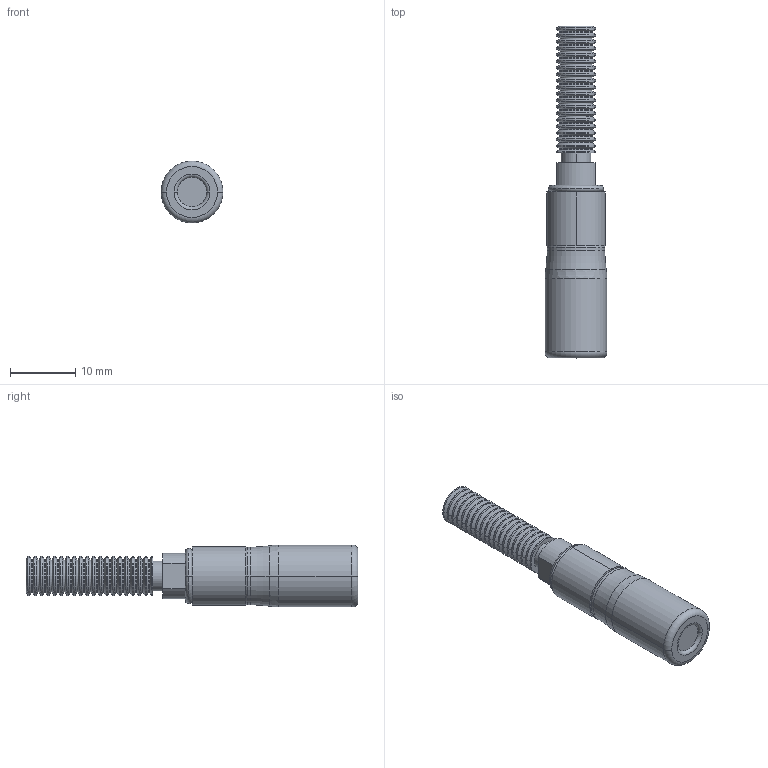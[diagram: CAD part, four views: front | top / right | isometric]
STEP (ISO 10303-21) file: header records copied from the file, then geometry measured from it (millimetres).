
FILE_DESCRIPTION(('STEP AP214'),'1');
FILE_NAME('CA.09.14.07.stp','2020-04-02T10:09:17',(' '),(' '),'Spatial InterOp 3D',' ',' ');
FILE_SCHEMA(('AUTOMOTIVE_DESIGN { 1 0 10303 214 1 1 1 1 }'));
Length unit declared in the file: millimetre
Products named in the file (5): CA.09.14.07
Assembly tree (4 placements, depth 2):
  CA.09.14.07
    CA.09.14.07
    CA.09.14.07
    CA.09.14.07
    CA.09.14.07
Bounding box: 9.53 x 51 x 9.53 mm (x, y, z)
Volume: 2265.2 mm3; surface area: 2268.3 mm2
Topology: 4 solids, 4 shells, 208 faces, 495 edges, 299 vertices
Faces by surface type: cylinder 95, cone 80, torus 16, plane 15, bspline 2
Entity records: 7908 total; most frequent: DIRECTION 1227, CARTESIAN_POINT 1035, ORIENTED_EDGE 986, AXIS2_PLACEMENT_3D 523, EDGE_CURVE 493, CIRCLE 312, VERTEX_POINT 299, EDGE_LOOP 218
